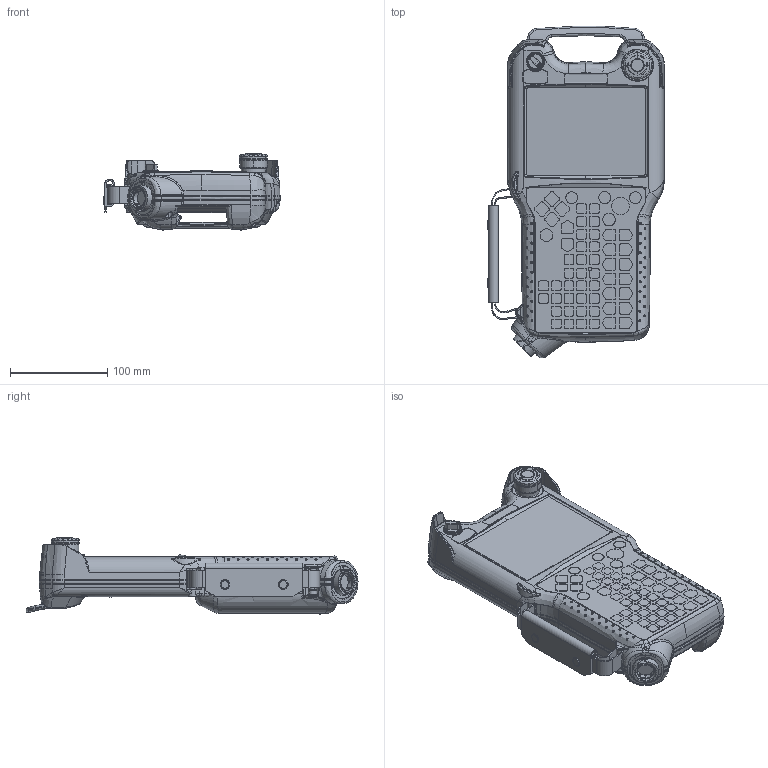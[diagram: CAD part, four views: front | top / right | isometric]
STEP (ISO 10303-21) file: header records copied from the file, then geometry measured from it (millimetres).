
FILE_DESCRIPTION(('CATIA V5 STEP Exchange','CAx-IF Rec.Pracs.--- Composite Materials ---3.4---2017-06-13'),'2;1');
FILE_NAME('C:\Users\inaba_ryo\Desktop\GEN II TP.stp','2022-09-29T04:36:36+00:00',('none'),('none'),'CATIA Version 5-6 Release 2020 SP4 HF11','CATIA V5 STEP AP203 v2','none');
FILE_SCHEMA(('CONFIG_CONTROL_DESIGN'));
Products named in the file (1): GEN II TP
Bounding box: 181.57 x 341.68 x 78.6 mm (x, y, z)
Surface area: 183050.8 mm2 (no closed solid volume)
Topology: 0 solids, 3408 shells, 3410 faces, 17969 edges, 17736 vertices
Faces by surface type: plane 1159, cylinder 1024, bspline 674, sphere 222, cone 142, torus 118, extrusion 67, revolution 4
Entity records: 222369 total; most frequent: CARTESIAN_POINT 103886, ORIENTED_EDGE 17742, EDGE_CURVE 17740, VERTEX_POINT 17738, DIRECTION 16092, VECTOR 7066, LINE 6999, AXIS2_PLACEMENT_3D 6360
